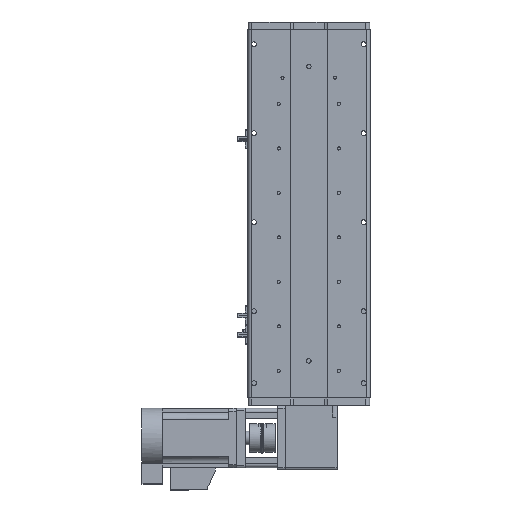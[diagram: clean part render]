
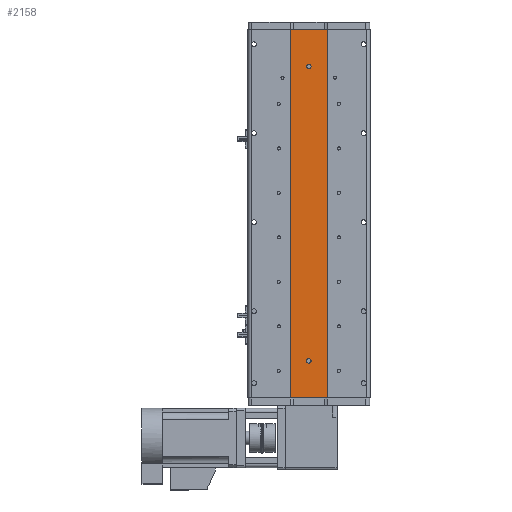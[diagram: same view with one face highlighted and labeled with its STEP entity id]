
A CAD part, front view. The second image highlights one B-rep face of the part: STEP entity #2158.
In plain terms, the highlighted planar face has unit normal (0, -1, 0).
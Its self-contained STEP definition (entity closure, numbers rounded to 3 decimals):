
#242 = CIRCLE ( 'NONE', #17590, 3. ) ;
#1376 = ORIENTED_EDGE ( 'NONE', *, *, #6362, .T. ) ;
#2158 = ADVANCED_FACE ( 'NONE', ( #24016, #6716, #14848 ), #27314, .F. ) ;
#2576 = DIRECTION ( 'NONE',  ( 1., 0., 0. ) ) ;
#2703 = CARTESIAN_POINT ( 'NONE',  ( 0., 1., 198.5 ) ) ;
#2997 = AXIS2_PLACEMENT_3D ( 'NONE', #30809, #44516, #34268 ) ;
#3414 = CARTESIAN_POINT ( 'NONE',  ( 25., 1., 248.5 ) ) ;
#3733 = AXIS2_PLACEMENT_3D ( 'NONE', #2703, #26877, #6151 ) ;
#4727 = LINE ( 'NONE', #3414, #23039 ) ;
#4830 = EDGE_LOOP ( 'NONE', ( #38910, #1376 ) ) ;
#5809 = CARTESIAN_POINT ( 'NONE',  ( 0., 1., 198.5 ) ) ;
#6151 = DIRECTION ( 'NONE',  ( 0., 0., 1. ) ) ;
#6362 = EDGE_CURVE ( 'NONE', #14663, #22834, #21665, .T. ) ;
#6716 = FACE_BOUND ( 'NONE', #4830, .T. ) ;
#6847 = DIRECTION ( 'NONE',  ( 1., 0., 0. ) ) ;
#8991 = CARTESIAN_POINT ( 'NONE',  ( -25., 1., 248.5 ) ) ;
#9061 = CARTESIAN_POINT ( 'NONE',  ( -25., 1., 248.5 ) ) ;
#9266 = DIRECTION ( 'NONE',  ( 0., 0., 1. ) ) ;
#9460 = ORIENTED_EDGE ( 'NONE', *, *, #10895, .F. ) ;
#10257 = VECTOR ( 'NONE', #29968, 1000. ) ;
#10503 = DIRECTION ( 'NONE',  ( 0., 0., -1. ) ) ;
#10895 = EDGE_CURVE ( 'NONE', #30606, #34345, #4727, .T. ) ;
#12753 = ORIENTED_EDGE ( 'NONE', *, *, #22175, .T. ) ;
#12904 = CARTESIAN_POINT ( 'NONE',  ( 0., 1., 201.5 ) ) ;
#13485 = CARTESIAN_POINT ( 'NONE',  ( 0., 1., -198.5 ) ) ;
#14294 = CARTESIAN_POINT ( 'NONE',  ( 0., 1., -198.5 ) ) ;
#14663 = VERTEX_POINT ( 'NONE', #12904 ) ;
#14848 = FACE_OUTER_BOUND ( 'NONE', #34201, .T. ) ;
#15191 = EDGE_CURVE ( 'NONE', #30606, #38403, #19431, .T. ) ;
#16054 = VERTEX_POINT ( 'NONE', #17620 ) ;
#16263 = CARTESIAN_POINT ( 'NONE',  ( 25., 1., -248.5 ) ) ;
#16392 = EDGE_CURVE ( 'NONE', #16054, #33123, #22010, .T. ) ;
#16612 = ORIENTED_EDGE ( 'NONE', *, *, #32546, .F. ) ;
#16948 = DIRECTION ( 'NONE',  ( 0., 0., 1. ) ) ;
#17590 = AXIS2_PLACEMENT_3D ( 'NONE', #14294, #38449, #17726 ) ;
#17620 = CARTESIAN_POINT ( 'NONE',  ( 0., 1., -195.5 ) ) ;
#17726 = DIRECTION ( 'NONE',  ( 0., 0., 1. ) ) ;
#17775 = ORIENTED_EDGE ( 'NONE', *, *, #16392, .T. ) ;
#17998 = VECTOR ( 'NONE', #2576, 1000. ) ;
#19431 = LINE ( 'NONE', #9061, #10257 ) ;
#20486 = CARTESIAN_POINT ( 'NONE',  ( 25., 1., -248.5 ) ) ;
#21546 = EDGE_CURVE ( 'NONE', #33123, #16054, #242, .T. ) ;
#21665 = CIRCLE ( 'NONE', #3733, 3. ) ;
#22010 = CIRCLE ( 'NONE', #27523, 3. ) ;
#22175 = EDGE_CURVE ( 'NONE', #38403, #33899, #37450, .T. ) ;
#22825 = CARTESIAN_POINT ( 'NONE',  ( 25., 1., 248.5 ) ) ;
#22834 = VERTEX_POINT ( 'NONE', #23912 ) ;
#23039 = VECTOR ( 'NONE', #6847, 1000. ) ;
#23912 = CARTESIAN_POINT ( 'NONE',  ( 0., 1., 195.5 ) ) ;
#24016 = FACE_BOUND ( 'NONE', #42495, .T. ) ;
#26877 = DIRECTION ( 'NONE',  ( 0., 1., 0. ) ) ;
#27314 = PLANE ( 'NONE',  #2997 ) ;
#27523 = AXIS2_PLACEMENT_3D ( 'NONE', #13485, #37653, #16948 ) ;
#29968 = DIRECTION ( 'NONE',  ( 0., 0., -1. ) ) ;
#29991 = CIRCLE ( 'NONE', #40060, 3. ) ;
#30018 = DIRECTION ( 'NONE',  ( 0., 1., 0. ) ) ;
#30606 = VERTEX_POINT ( 'NONE', #8991 ) ;
#30809 = CARTESIAN_POINT ( 'NONE',  ( 25., 1., 248.5 ) ) ;
#32546 = EDGE_CURVE ( 'NONE', #34345, #33899, #44696, .T. ) ;
#33123 = VERTEX_POINT ( 'NONE', #38539 ) ;
#33899 = VERTEX_POINT ( 'NONE', #20486 ) ;
#34201 = EDGE_LOOP ( 'NONE', ( #12753, #16612, #9460, #36200 ) ) ;
#34268 = DIRECTION ( 'NONE',  ( 0., 0., 1. ) ) ;
#34345 = VERTEX_POINT ( 'NONE', #22825 ) ;
#36200 = ORIENTED_EDGE ( 'NONE', *, *, #15191, .T. ) ;
#36820 = CARTESIAN_POINT ( 'NONE',  ( -25., 1., -248.5 ) ) ;
#37450 = LINE ( 'NONE', #16263, #17998 ) ;
#37653 = DIRECTION ( 'NONE',  ( 0., 1., 0. ) ) ;
#38142 = CARTESIAN_POINT ( 'NONE',  ( 25., 1., 248.5 ) ) ;
#38403 = VERTEX_POINT ( 'NONE', #36820 ) ;
#38449 = DIRECTION ( 'NONE',  ( 0., 1., 0. ) ) ;
#38539 = CARTESIAN_POINT ( 'NONE',  ( 0., 1., -201.5 ) ) ;
#38910 = ORIENTED_EDGE ( 'NONE', *, *, #40622, .T. ) ;
#40060 = AXIS2_PLACEMENT_3D ( 'NONE', #5809, #30018, #9266 ) ;
#40622 = EDGE_CURVE ( 'NONE', #22834, #14663, #29991, .T. ) ;
#42323 = ORIENTED_EDGE ( 'NONE', *, *, #21546, .T. ) ;
#42495 = EDGE_LOOP ( 'NONE', ( #42323, #17775 ) ) ;
#43602 = VECTOR ( 'NONE', #10503, 1000. ) ;
#44516 = DIRECTION ( 'NONE',  ( 0., 1., 0. ) ) ;
#44696 = LINE ( 'NONE', #38142, #43602 ) ;
